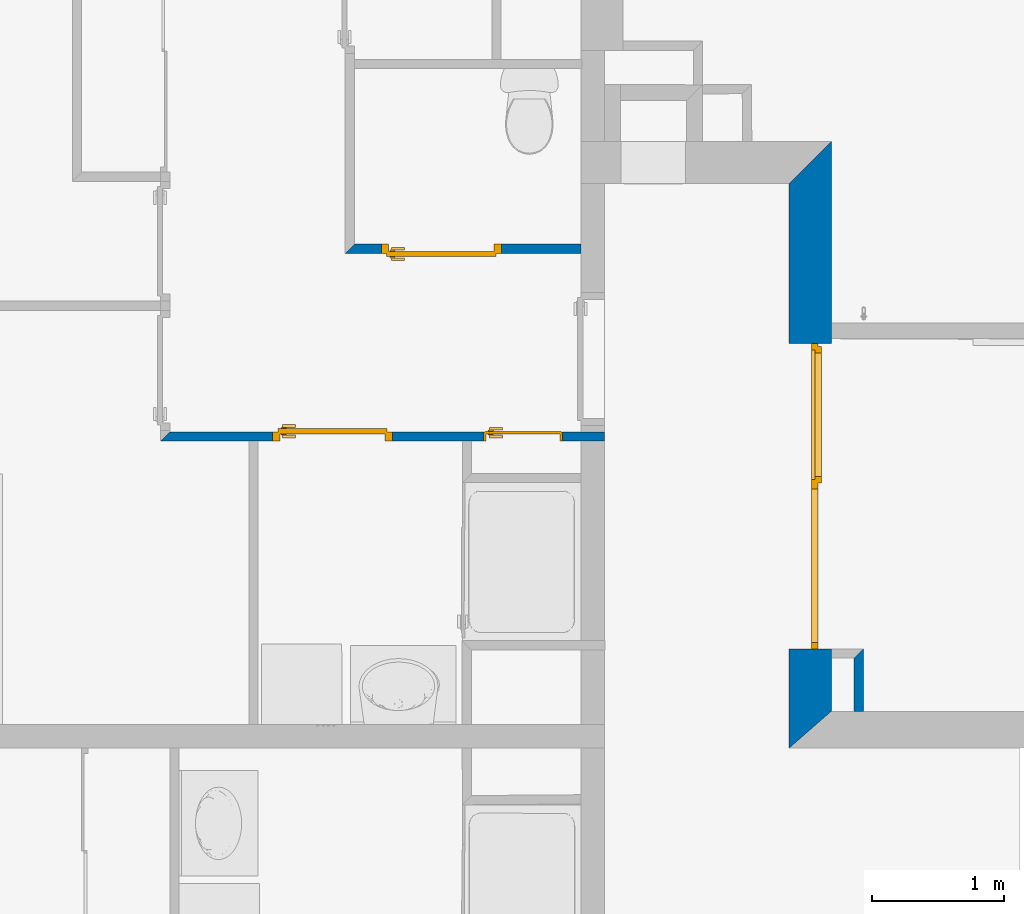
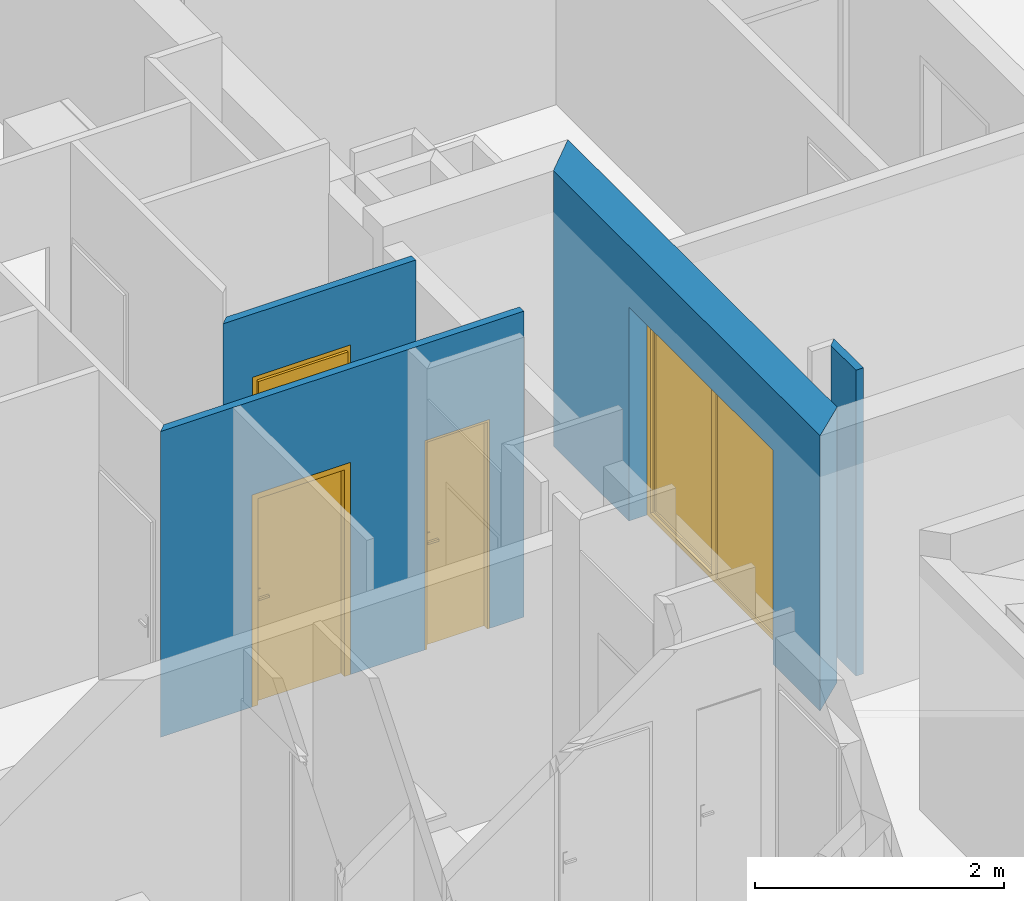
# One storey, part 52 of 171: 4 walls, 3 doors, 1 window, 4 openings.
"""IFC2X3 building model written with IfcOpenShell, lengths in millimetres."""

import ifcopenshell
import ifcopenshell.guid

model = None  # the IFC model being written
_history = None  # IfcOwnerHistory: only IFC2X3 demands one
_inside = {}  # id of a spatial element -> (the spatial element, [elements in it])
_under = {}  # id of a project, library or spatial element -> (it, [spatial elements below it])
_declared = {}  # id of a project -> (the project, [libraries it declares])
_typed = {}  # id of a type object -> (the type object, [elements of that type])
_made_of = {}  # id of a material, layer set ... -> (it, [elements and type objects made of it])


def new_model(schema):
    """Start an empty IFC model of exactly this schema.

    Asked for "IFC4X3", IfcOpenShell would pick the latest addendum, in which some entities
    have other attributes; the version numbers below select the first issue.
    IFC2X3 requires an IfcOwnerHistory on every rooted entity: one is made here for all.
    """
    global model, _history
    if schema == "IFC4X3":
        model = ifcopenshell.file(schema_version=(4, 3, 0, 0))
    else:
        model = ifcopenshell.file(schema=schema)
    _inside.clear()
    _under.clear()
    _declared.clear()
    _typed.clear()
    _made_of.clear()
    _history = None
    if model.schema == "IFC2X3":
        org = make("IfcOrganization", Name="unknown")
        user = make(
            "IfcPersonAndOrganization",
            ThePerson=make("IfcPerson", FamilyName="unknown"),
            TheOrganization=org,
        )
        app = make(
            "IfcApplication",
            ApplicationDeveloper=org,
            Version="unknown",
            ApplicationFullName="unknown",
            ApplicationIdentifier="unknown",
        )
        _history = make(
            "IfcOwnerHistory",
            OwningUser=user,
            OwningApplication=app,
            ChangeAction="ADDED",
            CreationDate=0,
        )
    return model


def make(cls, **values):
    """One entity of the class cls with the attributes given. An attribute that is None is left unset."""
    return model.create_entity(
        cls, **{name: value for name, value in values.items() if value is not None}
    )


def entity(cls, *values):
    """Any entity or typed value of the class cls, its attributes in the order of the schema. None: left unset."""
    e = model.create_entity(cls)
    for i, value in enumerate(values):
        if value is not None:
            e[i] = value
    return e


def rooted(cls, **values):
    """An entity with a GlobalId (a new one), such as an element, a storey or a relation."""
    return make(cls, GlobalId=ifcopenshell.guid.new(), OwnerHistory=_history, **values)


def si_unit(unit_type, name, prefix=None):
    """IfcSIUnit, for example si_unit("LENGTHUNIT", "METRE", prefix="MILLI")."""
    return make("IfcSIUnit", UnitType=unit_type, Prefix=prefix, Name=name)


def converted_unit(unit_type, name, factor, base, dimensions=None, offset=None):
    """IfcConversionBasedUnit, such as the inch: factor (a typed value) times the base unit."""
    return make(
        "IfcConversionBasedUnit"
        if offset is None
        else "IfcConversionBasedUnitWithOffset",
        ConversionOffset=offset,
        Dimensions=None
        if dimensions is None
        else entity("IfcDimensionalExponents", *dimensions),
        UnitType=unit_type,
        Name=name,
        ConversionFactor=make(
            "IfcMeasureWithUnit", ValueComponent=factor, UnitComponent=base
        ),
    )


def derived_unit(unit_type, elements):
    """IfcDerivedUnit: a product of units, each with its exponent."""
    return make(
        "IfcDerivedUnit",
        Elements=[
            make("IfcDerivedUnitElement", Unit=unit, Exponent=power)
            for unit, power in elements
        ],
        UnitType=unit_type,
    )


def money_unit(currency):
    """IfcMonetaryUnit."""
    return make("IfcMonetaryUnit", Currency=currency)


def assignment(units):
    """IfcUnitAssignment: the units of a project."""
    return None if units is None else make("IfcUnitAssignment", Units=units)


def point(xyz):
    """IfcCartesianPoint."""
    return None if xyz is None else make("IfcCartesianPoint", Coordinates=xyz)


def direction(xyz):
    """IfcDirection."""
    return None if xyz is None else make("IfcDirection", DirectionRatios=xyz)


def frame(location, z_axis=None, x_axis=None):
    """IfcAxis2Placement3D, a coordinate frame: its origin and axes. An axis left out is left unset."""
    return make(
        "IfcAxis2Placement3D",
        Location=point(location),
        Axis=direction(z_axis),
        RefDirection=direction(x_axis),
    )


def frame_2d(location, x_axis=None):
    """IfcAxis2Placement2D, a coordinate frame in the plane: its origin and x axis."""
    return make(
        "IfcAxis2Placement2D", Location=point(location), RefDirection=direction(x_axis)
    )


def origin_with_axes():
    """The frame at (0, 0, 0) with the z axis (0, 0, 1) and the x axis (1, 0, 0) written out."""
    return frame((0.0, 0.0, 0.0), z_axis=(0.0, 0.0, 1.0), x_axis=(1.0, 0.0, 0.0))


def origin_2d_with_axis():
    """The frame at (0, 0) in the plane with the x axis (1, 0) written out."""
    return frame_2d((0.0, 0.0), x_axis=(1.0, 0.0))


def place(relative_to, where):
    """IfcLocalPlacement: puts the frame where relative to a parent placement (None: the world)."""
    return make(
        "IfcLocalPlacement", PlacementRelTo=relative_to, RelativePlacement=where
    )


def context(
    kind, dimensions, precision=None, world=None, true_north=None, identifier=None
):
    """IfcGeometricRepresentationContext, for example the 3D "Model" context."""
    return make(
        "IfcGeometricRepresentationContext",
        ContextIdentifier=identifier,
        ContextType=kind,
        CoordinateSpaceDimension=dimensions,
        Precision=precision,
        WorldCoordinateSystem=world,
        TrueNorth=true_north,
    )


def subcontext(parent, identifier, kind, view, scale=None):
    """IfcGeometricRepresentationSubContext, for example "Body" below "Model"."""
    return make(
        "IfcGeometricRepresentationSubContext",
        ContextIdentifier=identifier,
        ContextType=kind,
        ParentContext=parent,
        TargetScale=scale,
        TargetView=view,
    )


def project(units=None, contexts=None):
    """IfcProject with its units and contexts."""
    return rooted(
        "IfcProject",
        Name="project",
        RepresentationContexts=contexts,
        UnitsInContext=assignment(units),
    )


def spatial(cls, under=None, at=None, **own):
    """A site, building, storey or space (cls), placed at a placement, below another one or the project."""
    s = rooted(cls, ObjectPlacement=at, **own)
    if under is not None:
        _under.setdefault(under.id(), (under, []))[1].append(s)
    return s


def polyline(points):
    """IfcPolyline through the points."""
    return make("IfcPolyline", Points=[point(p) for p in points])


def profile(cls, at=None, kind="AREA", **sizes):
    """A parametric profile (cls). Its sizes go by their IFC names, for example OverallWidth=200.0."""
    return make(cls, ProfileType=kind, Position=at, **sizes)


def rectangle(**sizes):
    """IfcRectangleProfileDef."""
    return profile("IfcRectangleProfileDef", **sizes)


def outline(outer, holes=None, kind="AREA"):
    """IfcArbitraryClosedProfileDef: a profile drawn as a closed curve; with holes, ...WithVoids."""
    if holes is None:
        return make("IfcArbitraryClosedProfileDef", ProfileType=kind, OuterCurve=outer)
    return make(
        "IfcArbitraryProfileDefWithVoids",
        ProfileType=kind,
        OuterCurve=outer,
        InnerCurves=holes,
    )


def extrude(swept, where, along, depth):
    """IfcExtrudedAreaSolid: the profile swept, set in the frame where, extruded along a direction by depth."""
    return make(
        "IfcExtrudedAreaSolid",
        SweptArea=swept,
        Position=where,
        ExtrudedDirection=direction(along),
        Depth=depth,
    )


def faces_of(points, faces, orient=None, outer=None):
    """IfcFace entities. A face is a list of loops; a loop is a list of indices into points, from 0.

    orient and outer hold one flag for each loop. By default every Orientation is true, the
    first loop of a face is its IfcFaceOuterBound and the others are IfcFaceBound.
    """
    made = []
    for i, loops in enumerate(faces):
        bounds = []
        for j, loop in enumerate(loops):
            is_outer = j == 0 if outer is None else outer[i][j]
            bounds.append(
                make(
                    "IfcFaceOuterBound" if is_outer else "IfcFaceBound",
                    Bound=make("IfcPolyLoop", Polygon=[points[k] for k in loop]),
                    Orientation=True if orient is None else orient[i][j],
                )
            )
        made.append(make("IfcFace", Bounds=bounds))
    return made


def open_shell(faces, orient=None, outer=None):
    """The faces of one IfcOpenShell. surface_model builds it on its shared points."""
    return ("IfcOpenShell", faces, orient, outer)


def faceted_brep(points, faces, orient=None, outer=None, voids=None):
    """IfcFacetedBrep: a solid bounded by flat faces; with voids (closed shells), ...WithVoids."""
    shared = [point(p) for p in points]
    hull = make("IfcClosedShell", CfsFaces=faces_of(shared, faces, orient, outer))
    if voids is None:
        return make("IfcFacetedBrep", Outer=hull)
    return make(
        "IfcFacetedBrepWithVoids",
        Outer=hull,
        Voids=[
            make(cls, CfsFaces=faces_of(shared, fs, o, b)) for cls, fs, o, b in voids
        ],
    )


def surface_model(cls, points, shells):
    """IfcFaceBasedSurfaceModel or IfcShellBasedSurfaceModel (cls): surfaces that need not close."""
    shared = [point(p) for p in points]
    made = [make(c, CfsFaces=faces_of(shared, fs, o, b)) for c, fs, o, b in shells]
    if cls == "IfcFaceBasedSurfaceModel":
        return make(cls, FbsmFaces=made)
    return make(cls, SbsmBoundary=made)


def shape(context_of_items, identifier, shape_type, items):
    """IfcShapeRepresentation: the items that make up one representation, for example the "Body"."""
    return make(
        "IfcShapeRepresentation",
        ContextOfItems=context_of_items,
        RepresentationIdentifier=identifier,
        RepresentationType=shape_type,
        Items=items,
    )


def source(mapping_origin, context_of_items, identifier, shape_type, items):
    """IfcRepresentationMap: a shape defined once, which mapped items show again and again."""
    return make(
        "IfcRepresentationMap",
        MappingOrigin=mapping_origin,
        MappedRepresentation=shape(context_of_items, identifier, shape_type, items),
    )


def transform(
    local_origin,
    x_axis=None,
    y_axis=None,
    z_axis=None,
    scale=None,
    scale2=None,
    scale3=None,
    uniform=True,
):
    """IfcCartesianTransformationOperator3D, or its non-uniform kind. x_axis, y_axis, z_axis: its Axis1, 2, 3."""
    if uniform:
        return make(
            "IfcCartesianTransformationOperator3D",
            Axis1=direction(x_axis),
            Axis2=direction(y_axis),
            LocalOrigin=point(local_origin),
            Scale=scale,
            Axis3=direction(z_axis),
        )
    return make(
        "IfcCartesianTransformationOperator3DnonUniform",
        Axis1=direction(x_axis),
        Axis2=direction(y_axis),
        LocalOrigin=point(local_origin),
        Scale=scale,
        Axis3=direction(z_axis),
        Scale2=scale2,
        Scale3=scale3,
    )


def mapped(mapping_source, mapping_target):
    """IfcMappedItem: shows the shape of a source again, moved by a transform."""
    return make(
        "IfcMappedItem", MappingSource=mapping_source, MappingTarget=mapping_target
    )


def material(Name=None, Category=None):
    """IfcMaterial."""
    return make("IfcMaterial", Name=Name, Category=Category)


def layer(
    of_material, thickness, ventilated=None, Name=None, Category=None, Priority=None
):
    """IfcMaterialLayer: one layer of a wall or slab, of a material (None: an air gap)."""
    return make(
        "IfcMaterialLayer",
        Material=of_material,
        LayerThickness=thickness,
        IsVentilated=ventilated,
        Name=Name,
        Category=Category,
        Priority=Priority,
    )


def layer_set(layers, Name=None):
    """IfcMaterialLayerSet."""
    return make("IfcMaterialLayerSet", MaterialLayers=layers, LayerSetName=Name)


def layer_usage(for_layer_set, set_direction, sense, offset, extent=None):
    """IfcMaterialLayerSetUsage: how a layer set lies in its element."""
    return make(
        "IfcMaterialLayerSetUsage",
        ForLayerSet=for_layer_set,
        LayerSetDirection=set_direction,
        DirectionSense=sense,
        OffsetFromReferenceLine=offset,
        ReferenceExtent=extent,
    )


def made_of(thing, what):
    """Note that an element or type object is made of a material, layer set ...; save() writes the relation."""
    if what is not None:
        _made_of.setdefault(what.id(), (what, []))[1].append(thing)
    return thing


def type_object(cls, material=None, **own):
    """A type object (cls), such as IfcWallType, which elements share."""
    return made_of(rooted(cls, **own), material)


def element(
    cls,
    number,
    at=None,
    inside=None,
    cuts=None,
    type_object=None,
    material=None,
    context=None,
    identifier="Body",
    shape_type=None,
    held_by="IfcProductDefinitionShape",
    body=None,
    shapes=None,
    **own,
):
    """One element of the class cls, such as IfcWall. Its Tag is "e" and its number.

    at: its placement. inside: the storey or other place that contains it. cuts: it is an
    opening in that element (IfcRelVoidsElement). A single representation is given by context,
    identifier, shape_type and body (its items); several are given by shapes. held_by: the class
    of the entity that holds the representations. save() writes the other relations.
    """
    e = rooted(cls, Tag="e%d" % number, ObjectPlacement=at, **own)
    if body is not None:
        shapes = [shape(context, identifier, shape_type, body)]
    if shapes is not None:
        e.Representation = make(held_by, Representations=shapes)
    if inside is not None:
        _inside.setdefault(inside.id(), (inside, []))[1].append(e)
    if cuts is not None:
        rooted(
            "IfcRelVoidsElement", RelatingBuildingElement=cuts, RelatedOpeningElement=e
        )
    if type_object is not None:
        _typed.setdefault(type_object.id(), (type_object, []))[1].append(e)
    return made_of(e, material)


def fill(opening, filler):
    """IfcRelFillsElement: the door or window that sits in an opening."""
    return rooted(
        "IfcRelFillsElement",
        RelatingOpeningElement=opening,
        RelatedBuildingElement=filler,
    )


def aggregate(whole, parts):
    """IfcRelAggregates: a whole, such as a stair, and the parts it consists of."""
    return rooted("IfcRelAggregates", RelatingObject=whole, RelatedObjects=parts)


def save(model, path):
    """Write the relations noted so far, then the file.

    IfcRelAggregates (storeys below a building ...), IfcRelContainedInSpatialStructure (elements
    in a storey), IfcRelDefinesByType, IfcRelAssociatesMaterial and IfcRelDeclares: one each for
    every whole, place, type object, material and project.
    """
    for whole, parts in _under.values():
        aggregate(whole, parts)
    for where, things in _inside.values():
        rooted(
            "IfcRelContainedInSpatialStructure",
            RelatedElements=things,
            RelatingStructure=where,
        )
    for kind, things in _typed.values():
        rooted("IfcRelDefinesByType", RelatedObjects=things, RelatingType=kind)
    for what, things in _made_of.values():
        rooted("IfcRelAssociatesMaterial", RelatedObjects=things, RelatingMaterial=what)
    for by, libraries in _declared.values():
        rooted("IfcRelDeclares", RelatingContext=by, RelatedDefinitions=libraries)
    model.write(path)


model = new_model("IFC2X3")

# Units and contexts
model_context = context("Model", 3, precision=0.01, world=origin_with_axes(), true_north=direction((0.0, 1.0)))
body_context = subcontext(model_context, "Body", "Model", "MODEL_VIEW")
ifc_project = project(units=[si_unit("LENGTHUNIT", "METRE", prefix="MILLI"), si_unit("AREAUNIT", "SQUARE_METRE"), si_unit("VOLUMEUNIT", "CUBIC_METRE"), converted_unit("PLANEANGLEUNIT", "DEGREE", entity("IfcPlaneAngleMeasure", 0.0174532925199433), si_unit("PLANEANGLEUNIT", "RADIAN"), dimensions=[0, 0, 0, 0, 0, 0, 0]), money_unit("USD"), converted_unit("TIMEUNIT", "Year", entity("IfcTimeMeasure", 31557600.0), si_unit("TIMEUNIT", "SECOND"), dimensions=[0, 0, 1, 0, 0, 0, 0]), si_unit("MASSUNIT", "GRAM", prefix="KILO"), si_unit("THERMODYNAMICTEMPERATUREUNIT", "DEGREE_CELSIUS"), si_unit("LUMINOUSINTENSITYUNIT", "LUMEN"), si_unit("ENERGYUNIT", "JOULE", prefix="MEGA"), derived_unit("THERMALCONDUCTANCEUNIT", [(si_unit("POWERUNIT", "WATT"), 1), (si_unit("LENGTHUNIT", "METRE"), -1), (si_unit("THERMODYNAMICTEMPERATUREUNIT", "KELVIN"), -1)]), derived_unit("SPECIFICHEATCAPACITYUNIT", [(si_unit("ENERGYUNIT", "JOULE"), 1), (si_unit("MASSUNIT", "GRAM", prefix="KILO"), -1), (si_unit("THERMODYNAMICTEMPERATUREUNIT", "KELVIN"), -1)]), derived_unit("MASSDENSITYUNIT", [(si_unit("MASSUNIT", "GRAM", prefix="KILO"), 1), (si_unit("VOLUMEUNIT", "CUBIC_METRE"), -1)])], contexts=[model_context])

# Site, building, storey
site_placement = place(None, origin_with_axes())
site = spatial("IfcSite", under=ifc_project, at=site_placement, Name="Site", CompositionType="ELEMENT")
building_placement = place(site_placement, origin_with_axes())
building = spatial("IfcBuilding", under=site, at=building_placement, Name="Bâtiment", CompositionType="ELEMENT")
storey_placement = place(building_placement, frame((0.0, 0.0, 3000.0), z_axis=(0.0, 0.0, 1.0), x_axis=(1.0, 0.0, 0.0)))
storey = spatial("IfcBuildingStorey", under=building, at=storey_placement, Name="rdc", CompositionType="ELEMENT", Elevation=3000.0)

# Wall
ifc_material_1 = material(Name="Hachure solide 268963992")
ifc_layer_1 = layer(ifc_material_1, 70.0, ventilated="UNKNOWN")
ifc_layer_set_1 = layer_set([ifc_layer_1], Name="Cloison 70 0826278243")
ifc_layer_usage_1 = layer_usage(ifc_layer_set_1, "AXIS2", "NEGATIVE", 70.0)
wall_type_1 = type_object("IfcWallType", Name="Cloison 70 0826278243 70", PredefinedType="NOTDEFINED")
wall_1_placement = place(storey_placement, frame((2226275.931858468, -632333.5146792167, 0.0), z_axis=(0.0, 0.0, 1.0), x_axis=(0.0, 1.0, 0.0)))
element("IfcWallStandardCase", 1, at=wall_1_placement, inside=storey, type_object=wall_type_1, material=ifc_layer_usage_1, Name="Mur-150", context=body_context, shape_type="SweptSolid", body=[
    extrude(outline(polyline([(0.0, 0.0), (472.666026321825, 0.0), (402.7192687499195, 70.00000000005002), (0.0, 70.00000000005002), (0.0, 0.0)])), origin_with_axes(), (0.0, 0.0, 1.0), 3000.0),
])

# Wall, openings, doors
ifc_layer_usage_2 = layer_usage(ifc_layer_set_1, "AXIS2", "POSITIVE", -70.0)
wall_2_placement = place(storey_placement, frame((2220940.801403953, -630212.921896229, 0.0), z_axis=(0.0, 0.0, 1.0), x_axis=(1.0, 0.0, 0.0)))
wall_2 = element("IfcWallStandardCase", 2, at=wall_2_placement, inside=storey, type_object=wall_type_1, material=ifc_layer_usage_2, Name="Mur-150", context=body_context, shape_type="SweptSolid", body=[
    extrude(outline(polyline([(-6.75845512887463e-06, -70.00000000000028), (3371.5662830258, -70.00000000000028), (3371.5662830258, 0.0), (70.00000000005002, 0.0), (-6.75845512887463e-06, -70.00000000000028)])), origin_with_axes(), (0.0, 0.0, 1.0), 3000.0),
])
opening_1_placement = place(wall_2_placement, frame((1305.182422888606, 0.0, 0.0), z_axis=(0.0, 0.0, 1.0), x_axis=(1.0, 0.0, 0.0)))
opening_1 = element("IfcOpeningElement", 3, at=opening_1_placement, cuts=wall_2, Name="Por-277", context=body_context, shape_type="SweptSolid", body=[
    extrude(rectangle(XDim=910.0000000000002, YDim=2080.0, at=origin_2d_with_axis()), frame((0.0, -70.00000000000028, 1040.0), z_axis=(0.0, 1.0, 0.0), x_axis=(1.0, 0.0, 0.0)), (0.0, 0.0, 1.0), 140.0),
])
opening_2_placement = place(wall_2_placement, frame((2751.292570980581, 0.0, 0.0), z_axis=(0.0, 0.0, 1.0), x_axis=(1.0, 0.0, 0.0)))
opening_2 = element("IfcOpeningElement", 4, at=opening_2_placement, cuts=wall_2, Name="Por-275", context=body_context, shape_type="SweptSolid", body=[
    extrude(rectangle(XDim=600.0000000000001, YDim=2050.0, at=origin_2d_with_axis()), frame((0.0, -70.00000000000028, 1025.0), z_axis=(0.0, 1.0, 0.0), x_axis=(1.0, 0.0, 0.0)), (0.0, 0.0, 1.0), 140.0),
])
door_style = type_object("IfcDoorStyle", Name="Porte_1v", ConstructionType="NOTDEFINED", OperationType="NOTDEFINED", ParameterTakesPrecedence=False, Sizeable=False)
shared_shape_1 = source(origin_with_axes(), body_context, "Body", "Brep", [
    faceted_brep([(300.0, 0.0, 0.0), (290.0, 0.0, 0.0), (290.0, 0.0, 2040.0), (-290.0, 0.0, 2040.0), (-290.0, 0.0, 0.0), (-300.0, 0.0, 0.0), (-300.0, 0.0, 2050.0), (300.0, 0.0, 2050.0), (300.0, -70.0, 0.0), (279.9999999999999, -70.0, 0.0), (279.9999999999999, -15.0, 0.0), (290.0, -15.0, 0.0), (290.0, -15.0, 2040.0), (-290.0, -15.0, 2040.0), (-290.0, -15.0, 0.0), (-279.9999999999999, -15.0, 0.0), (-279.9999999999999, -70.0, 0.0), (-300.0, -70.0, 0.0), (-300.0, -70.0, 2050.0), (300.0, -70.0, 2050.0), (-279.9999999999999, -70.0, 2030.0), (279.9999999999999, -70.0, 2030.0), (279.9999999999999, -15.0, 2030.0), (-279.9999999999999, -15.0, 2030.0)], [[[0, 1, 2, 3, 4, 5, 6, 7]], [[0, 8, 9, 10, 11, 1]], [[1, 11, 12, 2]], [[2, 12, 13, 3]], [[3, 13, 14, 4]], [[5, 4, 14, 15, 16, 17]], [[18, 6, 5, 17]], [[19, 7, 6, 18]], [[8, 0, 7, 19]], [[9, 8, 19, 18, 17, 16, 20, 21]], [[10, 9, 21, 22]], [[11, 10, 22, 23, 15, 14, 13, 12]], [[23, 20, 16, 15]], [[22, 21, 20, 23]]]),
    faceted_brep([(-224.9999999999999, -15.0, 900.0), (-264.9999999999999, -15.0, 900.0), (-264.9999999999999, -15.0, 1100.0), (-224.9999999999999, -15.0, 1100.0), (-224.9999999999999, -25.0, 900.0), (-264.9999999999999, -25.0, 900.0), (-264.9999999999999, -25.0, 1100.0), (-224.9999999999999, -25.0, 1100.0)], [[[0, 1, 2, 3]], [[1, 0, 4, 5]], [[2, 1, 5, 6]], [[3, 2, 6, 7]], [[0, 3, 7, 4]], [[5, 4, 7, 6]]]),
    faceted_brep([(-154.9999999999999, -25.0, 1000.0), (-254.9999999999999, -25.0, 1000.0), (-254.9999999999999, -25.0, 1020.0), (-154.9999999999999, -25.0, 1020.0), (-154.9999999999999, -45.0, 1000.0), (-254.9999999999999, -45.0, 1000.0), (-254.9999999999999, -45.0, 1020.0), (-154.9999999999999, -45.0, 1020.0)], [[[0, 1, 2, 3]], [[1, 0, 4, 5]], [[2, 1, 5, 6]], [[3, 2, 6, 7]], [[0, 3, 7, 4]], [[5, 4, 7, 6]]]),
    faceted_brep([(-224.9999999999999, 15.0, 900.0), (-264.9999999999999, 15.0, 900.0), (-264.9999999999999, 15.0, 1100.0), (-224.9999999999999, 15.0, 1100.0), (-224.9999999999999, 5.000000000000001, 900.0), (-264.9999999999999, 5.000000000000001, 900.0), (-264.9999999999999, 5.000000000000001, 1100.0), (-224.9999999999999, 5.000000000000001, 1100.0)], [[[0, 1, 2, 3]], [[1, 0, 4, 5]], [[2, 1, 5, 6]], [[3, 2, 6, 7]], [[0, 3, 7, 4]], [[5, 4, 7, 6]]]),
    faceted_brep([(-154.9999999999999, 35.0, 1000.0), (-254.9999999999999, 35.0, 1000.0), (-254.9999999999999, 35.0, 1020.0), (-154.9999999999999, 35.0, 1020.0), (-154.9999999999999, 15.0, 1000.0), (-254.9999999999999, 15.0, 1000.0), (-254.9999999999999, 15.0, 1020.0), (-154.9999999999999, 15.0, 1020.0)], [[[0, 1, 2, 3]], [[1, 0, 4, 5]], [[2, 1, 5, 6]], [[3, 2, 6, 7]], [[0, 3, 7, 4]], [[5, 4, 7, 6]]]),
    faceted_brep([(-290.0, 5.000000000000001, 0.0), (290.0, 5.000000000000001, 0.0), (290.0, -15.0, 0.0), (-290.0, -15.0, 0.0), (-290.0, 5.000000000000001, 2040.0), (290.0, 5.000000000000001, 2040.0), (290.0, -15.0, 2040.0), (-290.0, -15.0, 2040.0)], [[[0, 1, 2, 3]], [[0, 4, 5, 1]], [[1, 5, 6, 2]], [[3, 2, 6, 7]], [[4, 0, 3, 7]], [[5, 4, 7, 6]]]),
])
door_1_placement = place(opening_2_placement, frame((-290.0000000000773, 0.0, 0.0), z_axis=(0.0, 0.0, 1.0), x_axis=(1.0, 0.0, 0.0)))
door_1 = element("IfcDoor", 5, at=door_1_placement, inside=storey, type_object=door_style, Name="Por-275", OverallHeight=2040.0, OverallWidth=580.0, context=body_context, shape_type="MappedRepresentation", body=[
    mapped(shared_shape_1, transform((289.9999999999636, 0.0, 0.0))),
])
fill(opening_2, door_1)
shared_shape_2 = source(origin_with_axes(), body_context, "Body", "Brep", [
    faceted_brep([(455.0, 0.0, 0.0), (415.0000000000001, 0.0, 0.0), (415.0000000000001, 0.0, 2040.0), (-415.0000000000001, 0.0, 2040.0), (-415.0000000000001, 0.0, 0.0), (-455.0, 0.0, 0.0), (-455.0, 0.0, 2080.0), (455.0, 0.0, 2080.0), (455.0, -70.0, 0.0), (400.0, -70.0, 0.0), (400.0, -15.0, 0.0), (415.0000000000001, -15.0, 0.0), (415.0000000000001, -15.0, 2040.0), (-415.0000000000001, -15.0, 2040.0), (-415.0000000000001, -15.0, 0.0), (-400.0, -15.0, 0.0), (-400.0, -70.0, 0.0), (-455.0, -70.0, 0.0), (-455.0, -70.0, 2080.0), (455.0, -70.0, 2080.0), (-400.0, -70.0, 2025.0), (400.0, -70.0, 2025.0), (400.0, -15.0, 2025.0), (-400.0, -15.0, 2025.0)], [[[0, 1, 2, 3, 4, 5, 6, 7]], [[0, 8, 9, 10, 11, 1]], [[1, 11, 12, 2]], [[2, 12, 13, 3]], [[3, 13, 14, 4]], [[5, 4, 14, 15, 16, 17]], [[18, 6, 5, 17]], [[19, 7, 6, 18]], [[8, 0, 7, 19]], [[9, 8, 19, 18, 17, 16, 20, 21]], [[10, 9, 21, 22]], [[11, 10, 22, 23, 15, 14, 13, 12]], [[23, 20, 16, 15]], [[22, 21, 20, 23]]]),
    faceted_brep([(-350.0000000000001, -15.0, 900.0), (-390.0, -15.0, 900.0), (-390.0, -15.0, 1100.0), (-350.0000000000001, -15.0, 1100.0), (-350.0000000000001, -25.0, 900.0), (-390.0, -25.0, 900.0), (-390.0, -25.0, 1100.0), (-350.0000000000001, -25.0, 1100.0)], [[[0, 1, 2, 3]], [[1, 0, 4, 5]], [[2, 1, 5, 6]], [[3, 2, 6, 7]], [[0, 3, 7, 4]], [[5, 4, 7, 6]]]),
    faceted_brep([(-280.0, -25.0, 1000.0), (-380.0, -25.0, 1000.0), (-380.0, -25.0, 1020.0), (-280.0, -25.0, 1020.0), (-280.0, -45.0, 1000.0), (-380.0, -45.0, 1000.0), (-380.0, -45.0, 1020.0), (-280.0, -45.0, 1020.0)], [[[0, 1, 2, 3]], [[1, 0, 4, 5]], [[2, 1, 5, 6]], [[3, 2, 6, 7]], [[0, 3, 7, 4]], [[5, 4, 7, 6]]]),
    faceted_brep([(-350.0000000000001, 35.0, 900.0), (-390.0, 35.0, 900.0), (-390.0, 35.0, 1100.0), (-350.0000000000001, 35.0, 1100.0), (-350.0000000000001, 25.0, 900.0), (-390.0, 25.0, 900.0), (-390.0, 25.0, 1100.0), (-350.0000000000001, 25.0, 1100.0)], [[[0, 1, 2, 3]], [[1, 0, 4, 5]], [[2, 1, 5, 6]], [[3, 2, 6, 7]], [[0, 3, 7, 4]], [[5, 4, 7, 6]]]),
    faceted_brep([(-280.0, 55.00000000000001, 1000.0), (-380.0, 55.00000000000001, 1000.0), (-380.0, 55.00000000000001, 1020.0), (-280.0, 55.00000000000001, 1020.0), (-280.0, 35.0, 1000.0), (-380.0, 35.0, 1000.0), (-380.0, 35.0, 1020.0), (-280.0, 35.0, 1020.0)], [[[0, 1, 2, 3]], [[1, 0, 4, 5]], [[2, 1, 5, 6]], [[3, 2, 6, 7]], [[0, 3, 7, 4]], [[5, 4, 7, 6]]]),
    faceted_brep([(-415.0000000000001, 25.0, 0.0), (415.0000000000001, 25.0, 0.0), (415.0000000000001, -15.0, 0.0), (-415.0000000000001, -15.0, 0.0), (-415.0000000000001, 25.0, 2040.0), (415.0000000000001, 25.0, 2040.0), (415.0000000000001, -15.0, 2040.0), (-415.0000000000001, -15.0, 2040.0)], [[[0, 1, 2, 3]], [[0, 4, 5, 1]], [[1, 5, 6, 2]], [[3, 2, 6, 7]], [[4, 0, 3, 7]], [[5, 4, 7, 6]]]),
])
door_2_placement = place(opening_1_placement, frame((-415.0000000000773, 0.0, 0.0), z_axis=(0.0, 0.0, 1.0), x_axis=(1.0, 0.0, 0.0)))
door_2 = element("IfcDoor", 6, at=door_2_placement, inside=storey, type_object=door_style, Name="Por-277", OverallHeight=2040.0, OverallWidth=830.0, context=body_context, shape_type="MappedRepresentation", body=[
    mapped(shared_shape_2, transform((414.9999999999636, 0.0, 0.0))),
])
fill(opening_1, door_2)

# Wall, opening, door
ifc_layer_usage_3 = layer_usage(ifc_layer_set_1, "AXIS2", "POSITIVE", -70.0)
wall_3_placement = place(storey_placement, frame((2224312.333083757, -628858.03600249, 0.0), z_axis=(0.0, 0.0, 1.0), x_axis=(-1.0, 0.0, 0.0)))
wall_3 = element("IfcWallStandardCase", 7, at=wall_3_placement, inside=storey, type_object=wall_type_1, material=ifc_layer_usage_3, Name="Mur-149", context=body_context, shape_type="SweptSolid", body=[
    extrude(outline(polyline([(180.0010673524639, -70.00000000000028), (1900.014545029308, -70.00000000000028), (1970.014596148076, 0.0), (180.0004172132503, 0.0), (180.0010673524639, -70.00000000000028)])), origin_with_axes(), (0.0, 0.0, 1.0), 2700.0),
])
opening_3_placement = place(wall_3_placement, frame((1240.429156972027, 0.0, 0.0), z_axis=(0.0, 0.0, 1.0), x_axis=(1.0, 0.0, 0.0)))
opening_3 = element("IfcOpeningElement", 8, at=opening_3_placement, cuts=wall_3, Name="Por-276", context=body_context, shape_type="SweptSolid", body=[
    extrude(rectangle(XDim=910.0, YDim=2080.0, at=origin_2d_with_axis()), frame((0.0, -70.00000000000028, 1040.0), z_axis=(0.0, -1.0, 0.0), x_axis=(-1.0, 0.0, 0.0)), (0.0, 0.0, -1.0), 140.0),
])
shared_shape_3 = source(origin_with_axes(), body_context, "Body", "Brep", [
    faceted_brep([(-454.9999999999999, 0.0, 0.0), (-454.9999999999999, 0.0, 2080.0), (454.9999999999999, 0.0, 2080.0), (454.9999999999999, 0.0, 0.0), (414.9999999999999, 0.0, 0.0), (414.9999999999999, 0.0, 2040.0), (-414.9999999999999, 0.0, 2040.0), (-414.9999999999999, 0.0, 0.0), (-454.9999999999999, -69.99999999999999, 0.0), (-454.9999999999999, -69.99999999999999, 2080.0), (454.9999999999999, -69.99999999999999, 2080.0), (454.9999999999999, -69.99999999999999, 0.0), (399.9999999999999, -69.99999999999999, 0.0), (399.9999999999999, -15.0, 0.0), (414.9999999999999, -15.0, 0.0), (414.9999999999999, -15.0, 2040.0), (-414.9999999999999, -14.99999999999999, 2040.0), (-414.9999999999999, -14.99999999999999, 0.0), (-399.9999999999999, -14.99999999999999, 0.0), (-399.9999999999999, -69.99999999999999, 0.0), (-399.9999999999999, -69.99999999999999, 2025.0), (399.9999999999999, -69.99999999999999, 2025.0), (399.9999999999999, -15.0, 2025.0), (-399.9999999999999, -14.99999999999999, 2025.0)], [[[0, 1, 2, 3, 4, 5, 6, 7]], [[8, 9, 1, 0]], [[9, 10, 2, 1]], [[10, 11, 3, 2]], [[3, 11, 12, 13, 14, 4]], [[5, 4, 14, 15]], [[6, 5, 15, 16]], [[7, 6, 16, 17]], [[0, 7, 17, 18, 19, 8]], [[19, 20, 21, 12, 11, 10, 9, 8]], [[22, 13, 12, 21]], [[17, 16, 15, 14, 13, 22, 23, 18]], [[18, 23, 20, 19]], [[23, 22, 21, 20]]]),
    faceted_brep([(350.0, -15.0, 900.0), (350.0, -15.0, 1100.0), (389.9999999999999, -15.0, 1100.0), (389.9999999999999, -15.0, 900.0), (350.0, -25.0, 900.0), (350.0, -25.0, 1100.0), (389.9999999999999, -25.0, 1100.0), (389.9999999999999, -25.0, 900.0)], [[[0, 1, 2, 3]], [[0, 4, 5, 1]], [[1, 5, 6, 2]], [[2, 6, 7, 3]], [[3, 7, 4, 0]], [[7, 6, 5, 4]]]),
    faceted_brep([(279.9999999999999, -25.0, 1000.0), (279.9999999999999, -25.0, 1020.0), (379.9999999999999, -25.0, 1020.0), (379.9999999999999, -25.0, 1000.0), (279.9999999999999, -45.0, 1000.0), (279.9999999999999, -45.0, 1020.0), (379.9999999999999, -45.0, 1020.0), (379.9999999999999, -45.0, 1000.0)], [[[0, 1, 2, 3]], [[0, 4, 5, 1]], [[1, 5, 6, 2]], [[2, 6, 7, 3]], [[3, 7, 4, 0]], [[7, 6, 5, 4]]]),
    faceted_brep([(350.0, 34.99999999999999, 900.0), (350.0, 34.99999999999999, 1100.0), (389.9999999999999, 34.99999999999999, 1100.0), (389.9999999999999, 34.99999999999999, 900.0), (350.0, 24.99999999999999, 900.0), (350.0, 24.99999999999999, 1100.0), (389.9999999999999, 24.99999999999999, 1100.0), (389.9999999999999, 24.99999999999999, 900.0)], [[[0, 1, 2, 3]], [[0, 4, 5, 1]], [[1, 5, 6, 2]], [[2, 6, 7, 3]], [[3, 7, 4, 0]], [[7, 6, 5, 4]]]),
    faceted_brep([(279.9999999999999, 54.99999999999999, 1000.0), (279.9999999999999, 54.99999999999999, 1020.0), (379.9999999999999, 54.99999999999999, 1020.0), (379.9999999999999, 54.99999999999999, 1000.0), (279.9999999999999, 34.99999999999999, 1000.0), (279.9999999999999, 34.99999999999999, 1020.0), (379.9999999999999, 34.99999999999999, 1020.0), (379.9999999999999, 34.99999999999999, 1000.0)], [[[0, 1, 2, 3]], [[0, 4, 5, 1]], [[1, 5, 6, 2]], [[2, 6, 7, 3]], [[3, 7, 4, 0]], [[7, 6, 5, 4]]]),
    faceted_brep([(414.9999999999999, 24.99999999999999, 0.0), (414.9999999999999, -15.0, 0.0), (-414.9999999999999, -14.99999999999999, 0.0), (-414.9999999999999, 25.0, 0.0), (414.9999999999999, 24.99999999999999, 2040.0), (414.9999999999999, -15.0, 2040.0), (-414.9999999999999, -14.99999999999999, 2040.0), (-414.9999999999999, 25.0, 2040.0)], [[[0, 1, 2, 3]], [[4, 5, 1, 0]], [[1, 5, 6, 2]], [[3, 2, 6, 7]], [[0, 3, 7, 4]], [[7, 6, 5, 4]]]),
])
door_3_placement = place(opening_3_placement, frame((-414.9999999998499, 0.0, 0.0), z_axis=(0.0, 0.0, 1.0), x_axis=(1.0, 0.0, 0.0)))
door_3 = element("IfcDoor", 9, at=door_3_placement, inside=storey, type_object=door_style, Name="Por-276", OverallHeight=2040.0, OverallWidth=830.0, context=body_context, shape_type="MappedRepresentation", body=[
    mapped(shared_shape_3, transform((414.9999999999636, 0.0, 0.0))),
])
fill(opening_3, door_3)

# Wall, opening, window
ifc_material_2 = material(Name="Parpaing 312445824")
ifc_layer_2 = layer(ifc_material_2, 180.0, ventilated="UNKNOWN")
ifc_material_3 = material(Name="Isolant styromousse 301821074")
ifc_layer_3 = layer(ifc_material_3, 140.0, ventilated="UNKNOWN")
ifc_layer_set_2 = layer_set([ifc_layer_2, ifc_layer_3], Name="isol int 18+14")
ifc_layer_usage_4 = layer_usage(ifc_layer_set_2, "AXIS2", "POSITIVE", 0.0)
wall_type_2 = type_object("IfcWallType", Name="isol int 18+14 320", PredefinedType="NOTDEFINED")
wall_4_placement = place(storey_placement, frame((2225712.31835671, -628327.4571735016, 0.0), z_axis=(0.0, 0.0, 1.0), x_axis=(0.0, -1.0, 0.0)))
wall_4 = element("IfcWallStandardCase", 10, at=wall_4_placement, inside=storey, type_object=wall_type_2, material=ifc_layer_usage_4, Name="Mur-143", context=body_context, shape_type="SweptSolid", body=[
    extrude(outline(polyline([(0.0, 0.0), (4286.057505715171, 0.0), (4006.057505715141, 320.00000000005), (-320.0000000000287, 320.00000000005), (0.0, 0.0)])), origin_with_axes(), (0.0, 0.0, 1.0), 2700.0),
])
opening_4_placement = place(wall_4_placement, frame((2373.270879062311, -3.410605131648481e-10, 0.0), z_axis=(0.0, 0.0, 1.0), x_axis=(1.0, 0.0, 0.0)))
opening_4 = element("IfcOpeningElement", 11, at=opening_4_placement, cuts=wall_4, Name="Fen-155", context=body_context, shape_type="SweptSolid", body=[
    extrude(rectangle(XDim=2319.870471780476, YDim=2100.0, at=origin_2d_with_axis()), frame((0.0, 220.0000000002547, 1050.0), z_axis=(0.0, 1.0, 0.0), x_axis=(1.0, 0.0, 0.0)), (0.0, 0.0, -1.0), 540.0),
    extrude(rectangle(XDim=2319.870471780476, YDim=2100.0, at=origin_2d_with_axis()), frame((0.0, 220.0000000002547, 1050.0), z_axis=(0.0, -1.0, 0.0), x_axis=(1.0, 0.0, 0.0)), (0.0, 0.0, -1.0), 420.0000000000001),
])
window_style = type_object("IfcWindowStyle", Name="Fenêtre variable 27", ConstructionType="NOTDEFINED", OperationType="DOUBLE_PANEL_VERTICAL", ParameterTakesPrecedence=False, Sizeable=False)
shared_shape_4 = source(origin_with_axes(), body_context, "Body", "SurfaceModel", [
    faceted_brep([(-1134.935235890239, 0.0, 2050.0), (-1159.935235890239, 0.0, 2050.0), (-1159.935235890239, -50.00000000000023, 2050.0), (-1109.935235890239, -50.00000000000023, 2050.0), (-1109.935235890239, -25.00000000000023, 2050.0), (-1134.935235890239, -25.00000000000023, 2050.0), (-1134.935235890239, 0.0, 50.00000000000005), (-1159.935235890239, 0.0, 50.00000000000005), (-1159.935235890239, -49.99999999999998, 50.00000000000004), (-1109.935235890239, -49.99999999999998, 50.00000000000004), (-1109.935235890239, -24.99999999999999, 50.00000000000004), (-1134.935235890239, -24.99999999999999, 50.00000000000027)], [[[0, 1, 2, 3, 4, 5]], [[6, 7, 1, 0]], [[1, 7, 8, 2]], [[2, 8, 9, 3]], [[4, 3, 9, 10]], [[10, 11, 5, 4]], [[5, 11, 6, 0]], [[11, 10, 9, 8, 7, 6]]]),
    faceted_brep([(-126.1820345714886, -25.00000000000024, 2050.0), (-126.1820345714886, -50.00000000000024, 2050.0), (-56.18203457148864, -50.00000000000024, 2050.0), (-56.18203457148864, 0.0, 2050.0), (-101.1820345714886, 0.0, 2050.0), (-101.1820345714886, -25.00000000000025, 2050.0), (-126.1820345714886, -25.0, 50.00000000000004), (-126.1820345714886, -49.99999999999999, 50.00000000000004), (-56.18203457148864, -49.99999999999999, 50.00000000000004), (-56.18203457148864, 0.0, 50.00000000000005), (-101.1820345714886, 0.0, 50.00000000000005), (-101.1820345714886, -25.0, 50.00000000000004)], [[[0, 1, 2, 3, 4, 5]], [[6, 7, 1, 0]], [[8, 2, 1, 7]], [[9, 3, 2, 8]], [[4, 3, 9, 10]], [[10, 11, 5, 4]], [[5, 11, 6, 0]], [[11, 10, 9, 8, 7, 6]]]),
    faceted_brep([(-126.1820345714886, -25.0, 50.00000000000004), (-126.1820345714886, -49.99999999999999, 50.00000000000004), (-56.18203457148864, -49.99999999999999, 50.00000000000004), (-56.18203457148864, 0.0, 50.00000000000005), (-101.1820345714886, 0.0, 50.00000000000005), (-101.1820345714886, -25.0, 50.00000000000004), (-1109.935235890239, -24.99999999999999, 50.00000000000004), (-1109.935235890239, -49.99999999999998, 50.00000000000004), (-1159.935235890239, -49.99999999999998, 50.00000000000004), (-1159.935235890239, -49.99999999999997, 0.0), (1159.935235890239, -50.0, 0.0), (1159.935235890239, -50.00000000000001, 50.00000000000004), (1109.935235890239, -50.00000000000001, 50.00000000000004), (1109.935235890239, 0.0, 50.00000000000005), (-1134.935235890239, 0.0, 24.99999999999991), (-101.1820345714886, 0.0, 24.99999999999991), (1159.935235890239, 0.0, 50.00000000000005), (1159.935235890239, 0.0, 0.0), (-1159.935235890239, 0.0, 0.0), (-1159.935235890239, 0.0, 50.00000000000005), (-1134.935235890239, 0.0, 50.00000000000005), (-101.1820345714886, -25.0, 24.99999999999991), (-1134.935235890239, -24.99999999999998, 24.99999999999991), (-1134.935235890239, -24.99999999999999, 50.00000000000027)], [[[0, 1, 2, 3, 4, 5]], [[6, 7, 1, 0]], [[8, 9, 10, 11, 12, 2, 1, 7]], [[13, 3, 2, 12]], [[14, 15, 4, 3, 13, 16, 17, 18, 19, 20]], [[15, 21, 5, 4]], [[5, 21, 22, 23, 6, 0]], [[23, 20, 19, 8, 7, 6]], [[19, 18, 9, 8]], [[18, 17, 10, 9]], [[17, 16, 11, 10]], [[16, 13, 12, 11]], [[14, 22, 21, 15]], [[23, 22, 14, 20]]]),
    faceted_brep([(-1134.935235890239, 0.0, 2050.0), (-1159.935235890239, 0.0, 2050.0), (-1159.935235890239, 0.0, 2100.0), (1159.935235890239, 0.0, 2100.0), (1159.935235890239, 0.0, 2050.0), (1109.935235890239, 0.0, 2050.0), (-56.18203457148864, 0.0, 2050.0), (-101.1820345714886, 0.0, 2050.0), (-101.1820345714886, 0.0, 2075.0), (-1134.935235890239, 0.0, 2075.0), (-1134.935235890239, -25.00000000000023, 2050.0), (-1109.935235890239, -25.00000000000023, 2050.0), (-1109.935235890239, -50.00000000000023, 2050.0), (-1159.935235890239, -50.00000000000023, 2050.0), (-1159.935235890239, -50.00000000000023, 2100.0), (1159.935235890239, -50.00000000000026, 2100.0), (1159.935235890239, -50.00000000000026, 2050.0), (1109.935235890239, -50.00000000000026, 2050.0), (-56.18203457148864, -50.00000000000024, 2050.0), (-101.1820345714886, -25.00000000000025, 2050.0), (-126.1820345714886, -50.00000000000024, 2050.0), (-126.1820345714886, -25.00000000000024, 2050.0), (-101.1820345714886, -25.00000000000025, 2075.0), (-1134.935235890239, -25.00000000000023, 2075.0)], [[[0, 1, 2, 3, 4, 5, 6, 7, 8, 9]], [[10, 11, 12, 13, 1, 0]], [[2, 1, 13, 14]], [[3, 2, 14, 15]], [[4, 3, 15, 16]], [[5, 4, 16, 17]], [[6, 5, 17, 18]], [[19, 7, 6, 18, 20, 21]], [[7, 19, 22, 8]], [[8, 22, 23, 9]], [[9, 23, 10, 0]], [[21, 11, 10, 23, 22, 19]], [[21, 20, 12, 11]], [[18, 17, 16, 15, 14, 13, 12, 20]]]),
    faceted_brep([(1109.935235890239, -50.00000000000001, 50.0), (1109.935235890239, 0.0, 50.00000000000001), (1159.935235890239, 0.0, 50.00000000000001), (1159.935235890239, -50.00000000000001, 50.0), (1109.935235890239, -50.00000000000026, 2050.0), (1109.935235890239, 0.0, 2050.0), (1159.935235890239, 0.0, 2050.0), (1159.935235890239, -50.00000000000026, 2050.0)], [[[0, 1, 2, 3]], [[4, 5, 1, 0]], [[1, 5, 6, 2]], [[3, 2, 6, 7]], [[0, 3, 7, 4]], [[7, 6, 5, 4]]]),
    faceted_brep([(-1084.935235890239, -25.0000000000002, 2025.0), (-1084.935235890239, 24.99999999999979, 2025.0), (-1134.935235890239, 24.9999999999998, 2025.0), (-1134.935235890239, -25.00000000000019, 2025.0), (-1084.935235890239, -24.99999999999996, 75.00000000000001), (-1084.935235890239, 25.00000000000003, 75.00000000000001), (-1134.935235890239, 25.00000000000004, 75.00000000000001), (-1134.935235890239, -24.99999999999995, 75.00000000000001)], [[[0, 1, 2, 3]], [[4, 5, 1, 0]], [[1, 5, 6, 2]], [[3, 2, 6, 7]], [[0, 3, 7, 4]], [[7, 6, 5, 4]]]),
    faceted_brep([(-151.1820345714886, -25.00000000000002, 75.00000000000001), (-151.1820345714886, 24.99999999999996, 75.00000000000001), (-101.1820345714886, 24.99999999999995, 75.00000000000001), (-101.1820345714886, -25.00000000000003, 75.00000000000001), (-151.1820345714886, -25.00000000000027, 2025.0), (-151.1820345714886, 24.99999999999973, 2025.0), (-101.1820345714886, 24.99999999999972, 2025.0), (-101.1820345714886, -25.00000000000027, 2025.0)], [[[0, 1, 2, 3]], [[4, 5, 1, 0]], [[1, 5, 6, 2]], [[3, 2, 6, 7]], [[0, 3, 7, 4]], [[7, 6, 5, 4]]]),
    faceted_brep([(-101.1820345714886, -25.00000000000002, 25.0), (-101.1820345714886, 24.99999999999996, 25.00000000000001), (-101.1820345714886, 24.99999999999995, 75.00000000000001), (-101.1820345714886, -25.00000000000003, 75.00000000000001), (-1134.935235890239, -24.99999999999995, 25.0), (-1134.935235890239, 25.00000000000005, 25.00000000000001), (-1134.935235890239, 25.00000000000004, 75.00000000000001), (-1084.935235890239, 25.00000000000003, 75.00000000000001), (-151.1820345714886, 24.99999999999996, 75.00000000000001), (-151.1820345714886, -25.00000000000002, 75.00000000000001), (-1084.935235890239, -24.99999999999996, 75.00000000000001), (-1134.935235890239, -24.99999999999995, 75.00000000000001)], [[[0, 1, 2, 3]], [[4, 5, 1, 0]], [[1, 5, 6, 7, 8, 2]], [[3, 2, 8, 9]], [[0, 3, 9, 10, 11, 4]], [[11, 6, 5, 4]], [[10, 7, 6, 11]], [[9, 8, 7, 10]]]),
    faceted_brep([(-1134.935235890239, -25.0000000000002, 2075.0), (-1134.935235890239, 24.9999999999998, 2075.0), (-1134.935235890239, 24.9999999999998, 2025.0), (-1134.935235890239, -25.00000000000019, 2025.0), (-101.1820345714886, -25.00000000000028, 2075.0), (-101.1820345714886, 24.99999999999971, 2075.0), (-101.1820345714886, 24.99999999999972, 2025.0), (-151.1820345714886, 24.99999999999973, 2025.0), (-1084.935235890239, 24.99999999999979, 2025.0), (-1084.935235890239, -25.0000000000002, 2025.0), (-151.1820345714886, -25.00000000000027, 2025.0), (-101.1820345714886, -25.00000000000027, 2025.0)], [[[0, 1, 2, 3]], [[4, 5, 1, 0]], [[1, 5, 6, 7, 8, 2]], [[3, 2, 8, 9]], [[0, 3, 9, 10, 11, 4]], [[11, 6, 5, 4]], [[10, 7, 6, 11]], [[9, 8, 7, 10]]]),
    surface_model("IfcShellBasedSurfaceModel", [(-1084.935235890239, -9.99999999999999, 75.00000000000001), (-151.1820345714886, -10.0, 75.00000000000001), (-151.1820345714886, -10.00000000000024, 2025.0), (-1084.935235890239, -10.00000000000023, 2025.0)], [open_shell([[[0, 1, 2, 3]]])]),
    surface_model("IfcShellBasedSurfaceModel", [(-1084.935235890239, 10.00000000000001, 75.00000000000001), (-1084.935235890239, 9.999999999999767, 2025.0), (-151.1820345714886, 9.999999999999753, 2025.0), (-151.1820345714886, 9.999999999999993, 75.00000000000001)], [open_shell([[[0, 1, 2, 3]]])]),
    surface_model("IfcShellBasedSurfaceModel", [(-56.18203457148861, -34.99999999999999, 49.99999999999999), (1109.935235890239, -35.00000000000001, 49.99999999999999), (1109.935235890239, -35.00000000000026, 2050.0), (-56.18203457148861, -35.00000000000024, 2050.0)], [open_shell([[[0, 1, 2, 3]]])]),
    surface_model("IfcShellBasedSurfaceModel", [(-56.18203457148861, -15.0, 49.99999999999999), (-56.18203457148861, -15.00000000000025, 2050.0), (1109.935235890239, -15.00000000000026, 2050.0), (1109.935235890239, -15.00000000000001, 49.99999999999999)], [open_shell([[[0, 1, 2, 3]]])]),
])
window_placement = place(opening_4_placement, frame((-1159.935235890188, 2.273736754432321e-10, 0.0), z_axis=(0.0, 0.0, 1.0), x_axis=(1.0, 0.0, 0.0)))
window = element("IfcWindow", 12, at=window_placement, inside=storey, type_object=window_style, Name="Fen-155", OverallHeight=2100.0, OverallWidth=2319.87, context=body_context, shape_type="MappedRepresentation", body=[
    mapped(shared_shape_4, transform((1159.935235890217, 220.0000000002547, 0.0))),
])
fill(opening_4, window)

save(model, "model.ifc")
